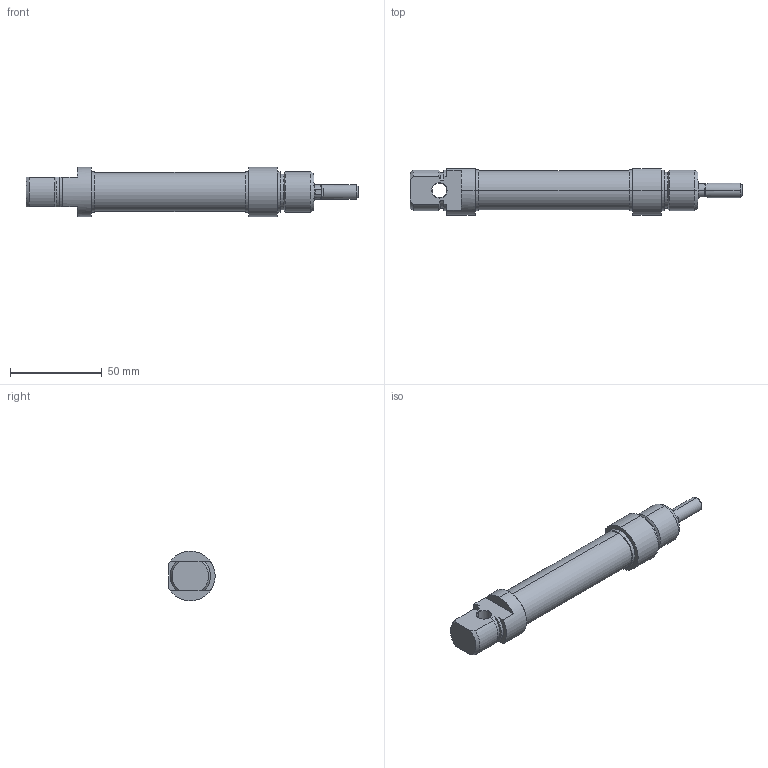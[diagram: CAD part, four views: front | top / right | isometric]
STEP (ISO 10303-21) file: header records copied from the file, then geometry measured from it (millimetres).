
FILE_DESCRIPTION (( 'STEP AP214' ), '1' );
FILE_NAME ('23_00440.STEP', '2017-01-03T15:51:22', ( '' ), ( '' ), 'SwSTEP 2.0', 'SolidWorks 2016', '' );
FILE_SCHEMA (( 'AUTOMOTIVE_DESIGN' ));
Length unit declared in the file: millimetre
Products named in the file (1): 23_00440
Bounding box: 181 x 25.2 x 27 mm (x, y, z)
Volume: 59259.7 mm3; surface area: 15663.8 mm2
Topology: 4 solids, 4 shells, 109 faces, 245 edges, 153 vertices
Faces by surface type: cylinder 43, plane 35, cone 27, torus 4
Entity records: 3222 total; most frequent: CARTESIAN_POINT 664, DIRECTION 563, ORIENTED_EDGE 486, EDGE_CURVE 243, AXIS2_PLACEMENT_3D 228, VERTEX_POINT 153, EDGE_LOOP 122, CIRCLE 118
